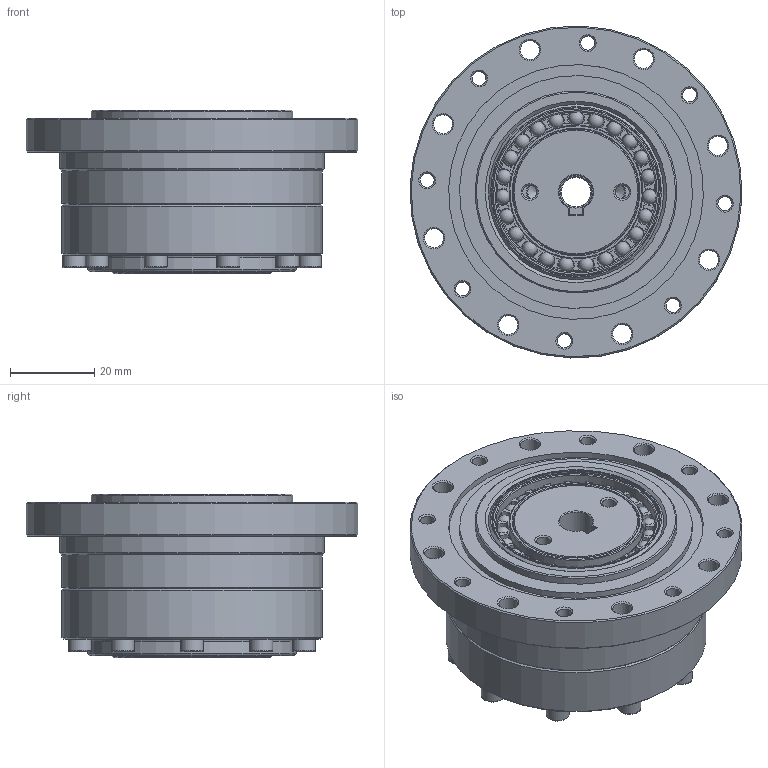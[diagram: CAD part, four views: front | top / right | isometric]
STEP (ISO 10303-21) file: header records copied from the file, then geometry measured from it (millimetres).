
FILE_DESCRIPTION(/* description */ (''),/* implementation_level */ '2;1');
FILE_NAME(/* name */ 'LSG-17-XX-U-I-DL-φ8.stp',/* time_stamp */ '2023-06-30T11:12:30+08:00',/* author */ (''),/* organization */ (''),/* preprocessor_version */ 'ST-DEVELOPER v16.7',/* originating_system */ 'SIEMENS PLM Software NX 12.0',/* authorisation */ '');
FILE_SCHEMA (('AUTOMOTIVE_DESIGN { 1 0 10303 214 3 1 1 1 }'));
Length unit declared in the file: millimetre
Products named in the file (14): EB304006-17KE-01; EB304006-17KC-46; TC-38x47x4; 发生器LSS-17-DL-φ8; O-45x1; GB-T70.1-2000,M3x16; GB-T70.1-2000,M5x16; 销子3x10; 柔轮垫块LSS-17; 柔轮LSS-17; 刚轮LSS-17; EB304006-17KE; 交叉轴承LSS-17; LSG-17-XX-U-I-DL-φ8
Assembly tree (29 placements, depth 3):
  LSG-17-XX-U-I-DL-φ8
    交叉轴承LSS-17
      TC-38x47x4
    刚轮LSS-17
    柔轮LSS-17
    柔轮垫块LSS-17
    EB304006-17KE
      EB304006-17KC-46
      EB304006-17KE-01
    销子3x10  x3
    GB-T70.1-2000,M5x16  x6
    GB-T70.1-2000,M3x16  x10
    O-45x1
    发生器LSS-17-DL-φ8
Bounding box: 78.95 x 78.95 x 39 mm (x, y, z)
Volume: 90075.5 mm3; surface area: 62862.3 mm2
Topology: 53 solids, 53 shells, 989 faces, 2180 edges, 1288 vertices
Faces by surface type: plane 344, cone 309, cylinder 200, torus 112, sphere 23, revolution 1
Full cylindrical faces by diameter (mm): 2.05 x2, 2.5 x10, 2.874 x10, 3 x9, 3.3 x10, 3.5 x10, 4.2 x12, 4.5 x8, 4.826 x6, 5.5 x22, 7 x1, 8.5 x6, 10 x3, 16 x1, 26 x1, 29 x2, 30 x2, 31.88 x2, 33 x1, 33.8 x1, 34 x1, 36 x1, 37.3 x1, 37.9 x1, 38 x2, 38.16 x2, 40 x2, 40.58 x1, 41.545 x1, 41.703 x1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
Entity records: 16896 total; most frequent: CARTESIAN_POINT 3896, DIRECTION 2809, ORIENTED_EDGE 1916, AXIS2_PLACEMENT_3D 1330, EDGE_LOOP 1078, EDGE_CURVE 958, FACE_BOUND 926, VERTEX_POINT 810
